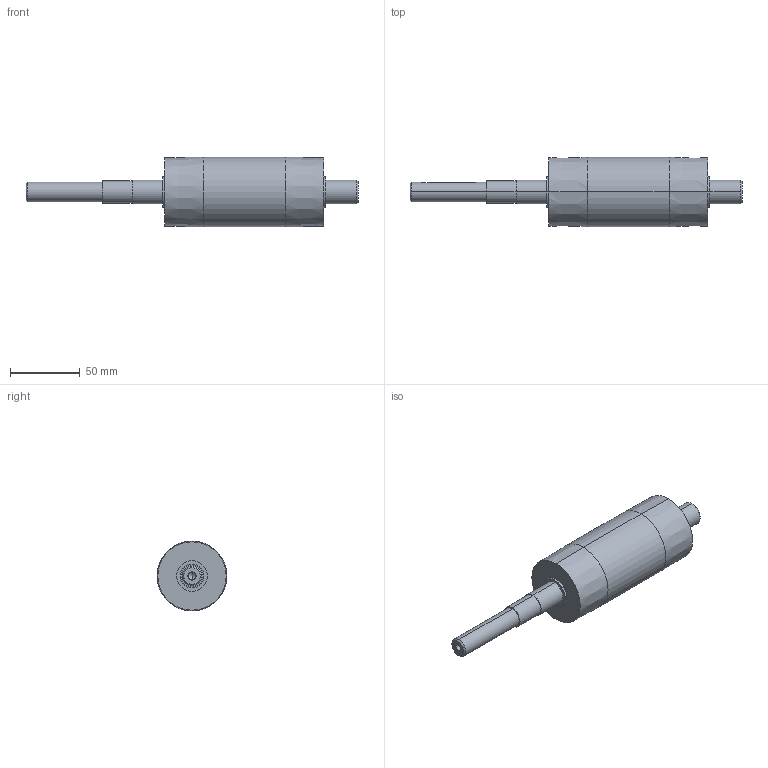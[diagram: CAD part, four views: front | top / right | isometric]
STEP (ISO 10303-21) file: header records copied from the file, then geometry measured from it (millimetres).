
FILE_DESCRIPTION (( 'STEP AP203' ), '1' );
FILE_NAME ('084.815.113.STEP', '2013-01-29T13:04:30', ( 'Alusic' ), ( 'Alusic' ), 'SwSTEP 2.0', 'SolidWorks 2011', '' );
FILE_SCHEMA (( 'CONFIG_CONTROL_DESIGN' ));
Length unit declared in the file: millimetre
Products named in the file (1): 084.815.113
Bounding box: 238 x 50 x 50 mm (x, y, z)
Volume: 244769.3 mm3; surface area: 28101.2 mm2
Topology: 1 solids, 1 shells, 41 faces, 84 edges, 51 vertices
Faces by surface type: cylinder 18, cone 12, plane 11
Entity records: 1207 total; most frequent: CARTESIAN_POINT 237, DIRECTION 208, ORIENTED_EDGE 164, AXIS2_PLACEMENT_3D 86, EDGE_CURVE 82, VERTEX_POINT 51, EDGE_LOOP 49, CIRCLE 44
